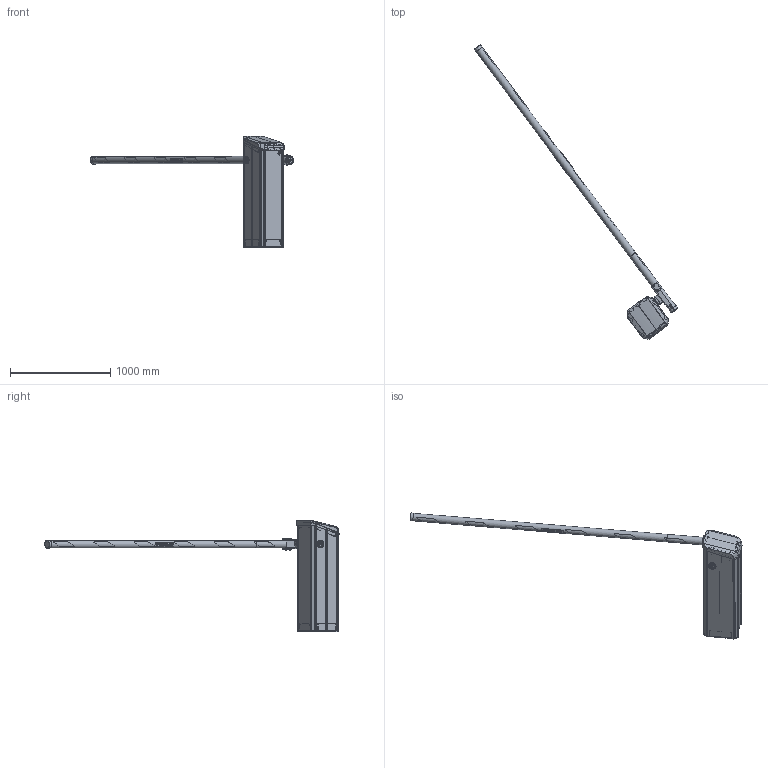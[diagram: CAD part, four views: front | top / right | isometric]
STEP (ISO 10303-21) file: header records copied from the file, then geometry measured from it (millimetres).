
FILE_DESCRIPTION(/* description */ ('Unknown'),/* implementation_level */ '2;1');
FILE_NAME(/* name */ '55860013_01',/* time_stamp */ '2023-03-07T07:02:31+01:00',/* author */ ('Unknown'),/* organization */ ('Unknown'),/* preprocessor_version */ 'ST-DEVELOPER v18.102',/* originating_system */ 'Solid Edge',/* authorisation */ 'Unknown');
FILE_SCHEMA (('AUTOMOTIVE_DESIGN {1 0 10303 214 3 1 1}'));
Products named in the file (63): 55860013; 10310282; 10140044; 10140044a; 10140044b; 20400150; 20410041; 20520064; 35000008; 34855030; 33075001; 34905002; 35000010; 34840047; TOLL-L-HUELLE; 20435761; 20186029; 10335028; 20695070; 20375010; 10085135; 20695057; 34745013; 20345347; 20345348; 10085135-Dichtung; 10435374; 20435667; 34685017; 34685017a; 34685017c; 34685017b; 34685017d; 20585064; 20415077; 20415077a; 20415077b; 20775050; 20775051; 21085025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
Assembly tree (100 placements, depth 5):
  55860013
    10310282
      10140044
        10140044a
        10140044b
      20400150  x2
      20410041  x2
      20520064
      35000008  x2
      34855030
      33075001
      34905002  x6
      35000010  x4
      34840047  x4
    TOLL-L-HUELLE
      20435761
      20186029
      10335028  x2
        20695070
        20375010
      10085135
        20695057
        34745013  x5
        20345347
        20345348
        10085135-Dichtung
      10435374
        20435667
        34685017
          34685017a
          34685017c
          34685017b
          34685017d
        20585064
      20415077
        20415077a
        20415077b
      20775050  x2
      20775051  x2
      21085025
      20165183
      10145080
        10145080a
        20040010
      21085024
      30545011
      20195100  x2
      10405014
        20405757
        31475004_10405014  x2
        32240037-10405014  x2
        31475004_10405014c
        31475004_10405014b
      20695069  x4
    10525109
      20635384_oa_0
      32420001
      33990150_oa_1
      20114242_oa_2
      20250111
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Bounding box: 2030.54 x 2938.53 x 1115.92 mm (x, y, z)
Volume: 9756972.9 mm3; surface area: 6872053.3 mm2
Topology: 90 solids, 90 shells, 5360 faces, 13843 edges, 8789 vertices
Faces by surface type: plane 2862, cylinder 1491, bspline 465, cone 257, torus 254, sphere 31
Full cylindrical faces by diameter (mm): 1.5 x3, 1.8 x2, 2.5 x4, 3.14 x6, 3.2 x1, 3.3 x6, 3.5 x1, 3.6 x4, 3.65 x4, 3.9 x6, 4 x12, 4.134 x2, 4.2 x2, 4.5 x6, 4.773 x9, 4.9 x3, 4.917 x6, 5 x2, 5.5 x4, 6 x22, 6.4 x4, 6.5 x9, 6.75 x1, 7 x5, 7.1 x2, 7.2 x1, 8 x6, 8.4 x2, 8.5 x3, 9 x4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
Entity records: 125986 total; most frequent: CARTESIAN_POINT 30904, ORIENTED_EDGE 18506, DIRECTION 18156, EDGE_CURVE 9253, AXIS2_PLACEMENT_3D 6156, VERTEX_POINT 6004, LINE 5844, VECTOR 5844
